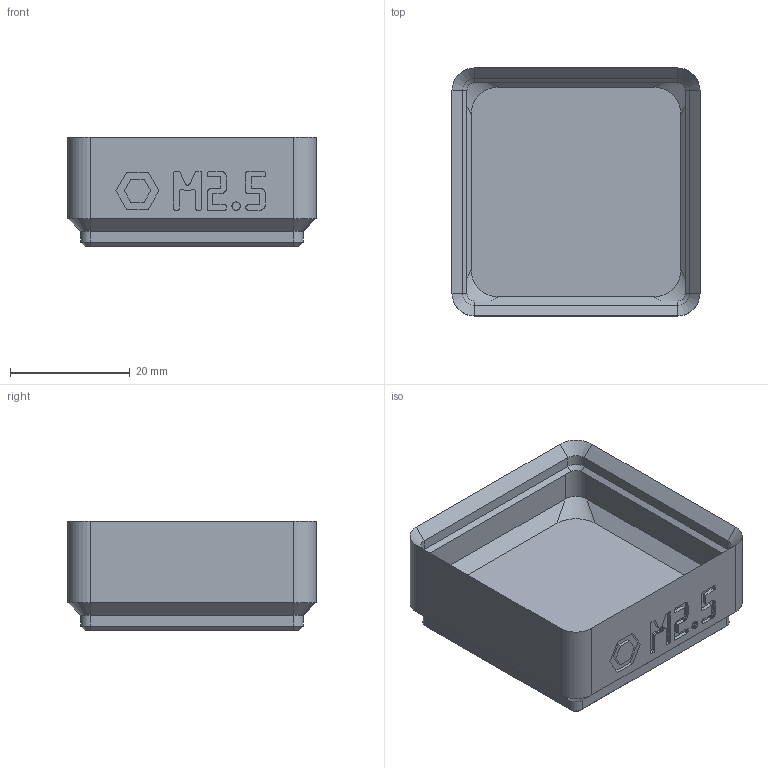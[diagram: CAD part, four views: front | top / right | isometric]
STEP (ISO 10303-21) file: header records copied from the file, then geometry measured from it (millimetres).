
FILE_DESCRIPTION(('Open CASCADE Model'),'2;1');
FILE_NAME('bin_nut_m2_5','2026-11-03T16:47:35',('Author'),( 'Open CASCADE'),'Open CASCADE STEP processor 8.0','build123d', 'Unknown');
FILE_SCHEMA(('AUTOMOTIVE_DESIGN { 1 0 10303 214 1 1 1 1 }'));
Length unit declared in the file: millimetre
Products named in the file (1): bin_nut_m2_5
Bounding box: 41.5 x 41.5 x 18.4 mm (x, y, z)
Volume: 10993 mm3; surface area: 8292.8 mm2
Topology: 1 solids, 1 shells, 488 faces, 1357 edges, 886 vertices
Faces by surface type: plane 440, cylinder 24, cone 16, bspline 8
Full cylindrical faces by diameter (mm): 3.2 x4, 6.5 x4
Entity records: 32046 total; most frequent: CARTESIAN_POINT 6496, DIRECTION 4143, LINE 3033, VECTOR 3033, ORIENTED_EDGE 2714, PCURVE 2714, DEFINITIONAL_REPRESENTATION 2714, EDGE_CURVE 1357
